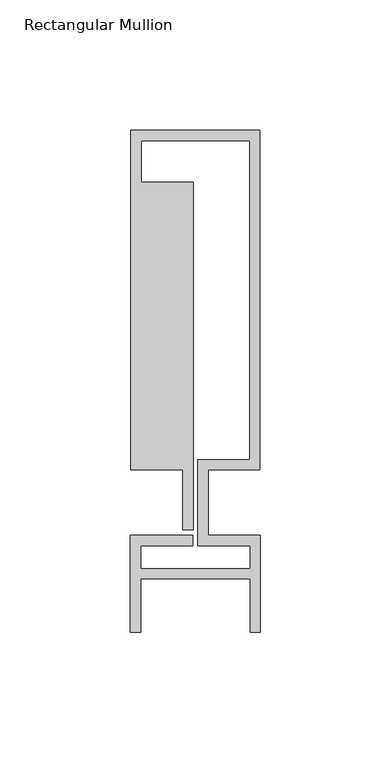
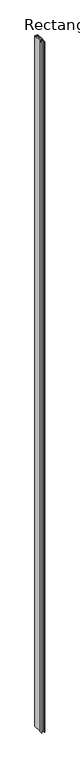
"""IFC4 building model written with IfcOpenShell, lengths in millimetres: member geometry, Rectangular Mullion : Reynaers_CW-50_Mullion-Transom_Horizontal_130.4mm_Facecap-03."""

from ifc_helpers import new_model, si_unit, frame, origin, place, context, project, spatial, polyline, outline, extrude, source, transform, mapped, element, save


def rectangular_mullion_e9cda891(model_context):
    return source(origin(), model_context, "Body", "SweptSolid", [
        extrude(outline(polyline([(-24.8004059, 142.9), (24.8004059, 142.9), (24.8004059, 12.5), (4.9004059, 12.5), (4.9004059, -12.5), (24.994845, -12.5), (24.994845, -49.8), (20.994845, -49.8), (20.994845, -29.3268728), (-20.994845, -29.3268728), (-20.994845, -49.8), (-24.994845, -49.8), (-24.994845, -12.5), (-1.0995941, -12.5), (-1.0995941, -16.5), (-20.994845, -16.5), (-20.994845, -25.3268728), (20.994845, -25.3268728), (20.994845, -16.5), (0.9004059, -16.5), (0.9004059, 16.5), (20.8004059, 16.5), (20.8004059, 138.9), (-20.8004059, 138.9), (-20.8004059, 123.0), (-0.9004059, 123.0), (-0.9004059, -10.5), (-4.9004059, -10.5), (-4.9004059, 12.5), (-24.8004059, 12.5), (-24.8004059, 142.9)])), frame((0.0, 0.0, -12000.0), z_axis=(0.0, 0.0, 1.0), x_axis=(1.0, 0.0, 0.0)), (0.0, 0.0, 1.0), 12000.0),
    ])


if __name__ == "__main__":
    model = new_model("IFC4")
    model_context = context("Model", 3, world=origin())
    ifc_project = project(units=[si_unit("LENGTHUNIT", "METRE", prefix="MILLI")], contexts=[model_context])
    site = spatial("IfcSite", under=ifc_project)
    building = spatial("IfcBuilding", under=site)
    placement = place(None, origin())
    rectangular_mullion_shape = rectangular_mullion_e9cda891(model_context)
    element("IfcMember", 1, ObjectType="Rectangular Mullion : Reynaers_CW-50_Mullion-Transom_Horizontal_130.4mm_Facecap-03", at=placement, inside=building, context=model_context, shape_type="MappedRepresentation", body=[
        mapped(rectangular_mullion_shape, transform((0.0, 0.0, 0.0), x_axis=(1.0, 0.0, 0.0), y_axis=(0.0, 1.0, 0.0), z_axis=(0.0, 0.0, 1.0))),
    ])
    save(model, "model.ifc")
